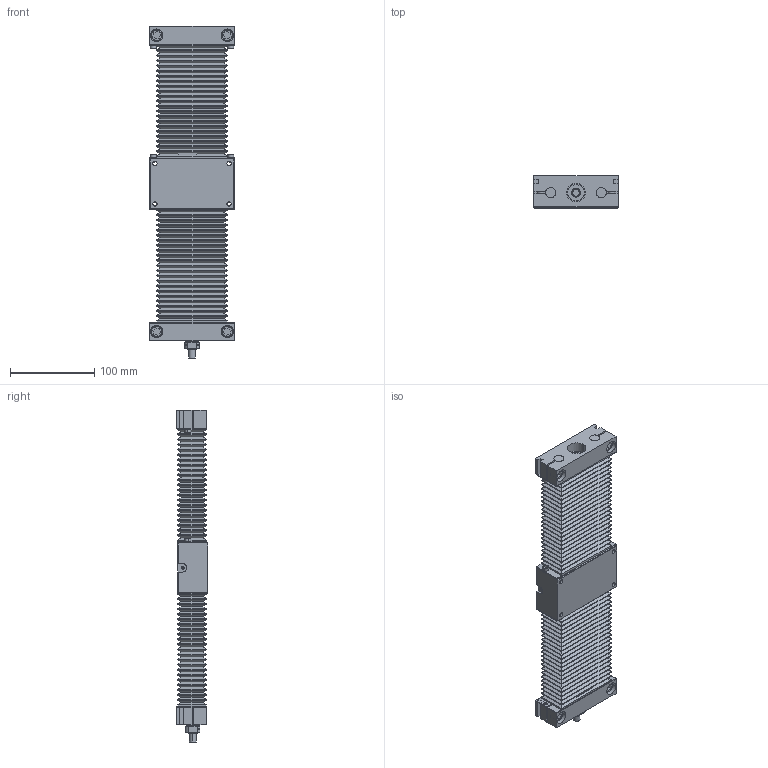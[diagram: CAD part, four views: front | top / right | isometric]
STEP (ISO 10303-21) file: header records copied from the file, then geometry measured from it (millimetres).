
FILE_DESCRIPTION (( 'STEP AP214' ), '1' );
FILE_NAME ('TKC1204B-150H0C-Ä£×é.step', '2025-10-10T09:43:51', ( '' ), ( '' ), 'SwSTEP 2.0', 'SolidWorks 2024', '' );
FILE_SCHEMA (( 'AUTOMOTIVE_DESIGN' ));
Length unit declared in the file: millimetre
Products named in the file (5): TKC12-150-03; TKC12-150-01; 内六角圆柱头螺钉M4X6; TKC12-02; TKC1204B-150H0C-模组
Assembly tree (8 placements, depth 2):
  TKC1204B-150H0C-模组
    TKC12-02
    TKC12-150-01
    TKC12-150-03  x2
    内六角圆柱头螺钉M4X6  x4
Bounding box: 100 x 38 x 394.5 mm (x, y, z)
Volume: 745418.3 mm3; surface area: 308239.3 mm2
Topology: 18 solids, 18 shells, 1305 faces, 2950 edges, 1737 vertices
Faces by surface type: plane 869, cylinder 335, cone 46, torus 44, bspline 11
Entity records: 39037 total; most frequent: CARTESIAN_POINT 16790, DIRECTION 4435, ORIENTED_EDGE 4416, EDGE_CURVE 2208, AXIS2_PLACEMENT_3D 1501, LINE 1433, VECTOR 1433, VERTEX_POINT 1353
